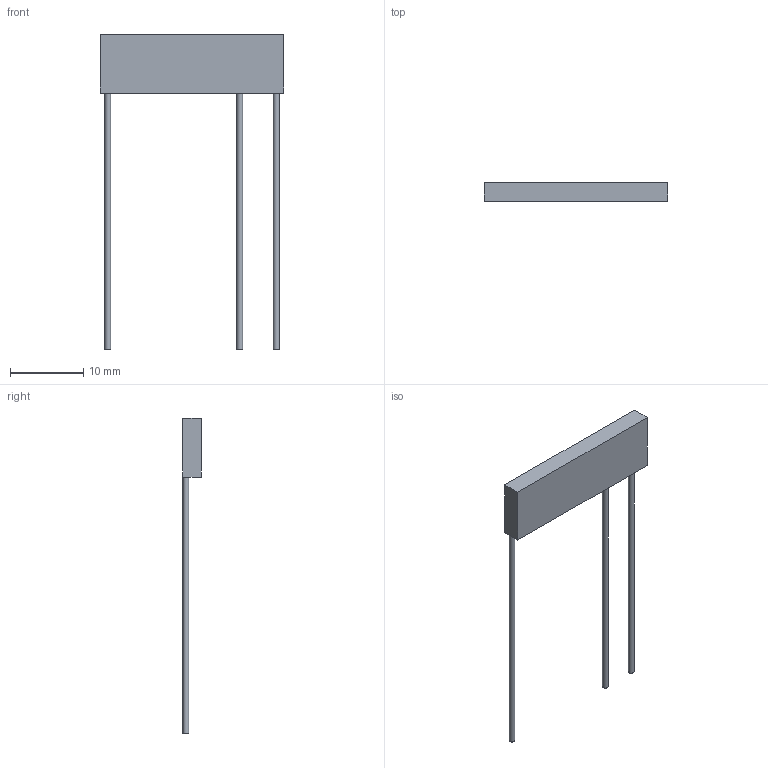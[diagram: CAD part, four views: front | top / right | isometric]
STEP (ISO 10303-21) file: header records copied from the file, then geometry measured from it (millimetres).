
FILE_DESCRIPTION(('STEP AP203'), '1');
FILE_NAME('NR1-77-2-0.5', '', ('UNSPECIFIED'), ('UNSPECIFIED'), 'ASCON STEP Converter 1.6', 'ASCON Math Kernel', '');
FILE_SCHEMA(('CONFIG_CONTROL_DESIGN'));
Length unit declared in the file: millimetre
Bounding box: 25 x 2.5 x 43 mm (x, y, z)
Volume: 552.8 mm3; surface area: 828.9 mm2
Topology: 1 solids, 1 shells, 12 faces, 27 edges, 17 vertices
Faces by surface type: plane 9, cylinder 3
Full cylindrical faces by diameter (mm): 0.8 x3
Entity records: 461 total; most frequent: DIRECTION 59, CARTESIAN_POINT 54, ORIENTED_EDGE 48, EDGE_CURVE 24, AXIS2_PLACEMENT_3D 22, VERTEX_POINT 17, EDGE_LOOP 15, LINE 15
